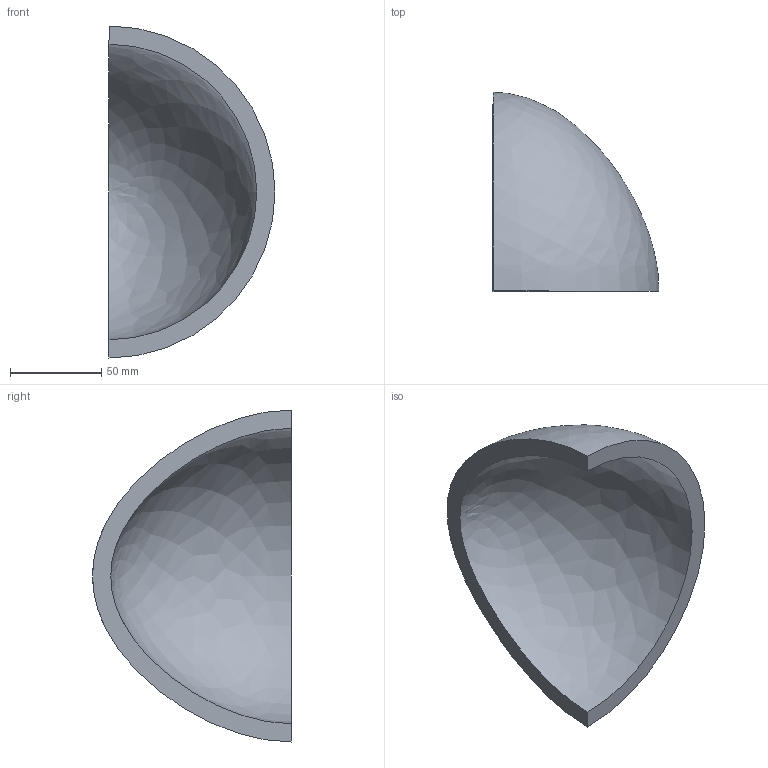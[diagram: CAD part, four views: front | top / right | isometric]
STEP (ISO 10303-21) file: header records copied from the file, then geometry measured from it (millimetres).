
FILE_DESCRIPTION(('CATIA V5 STEP Exchange'),'2;1');
FILE_NAME('C:\_Andres\UNIVERSIDAD\IQS\ASIGNATURAS\DAO\EXF\EXF-16172c\2inicio\Domeque_Sanz_Ej10_v9.stp','2017-03-05T22:31:10+00:00',('none'),('none'),'CATIA Version 5-6 Release 2014 SP1 HF18','CATIA V5 STEP AP203','none');
FILE_SCHEMA(('CONFIG_CONTROL_DESIGN'));
Length unit declared in the file: millimetre
Products named in the file (1): Domeque_Sanz_Ej10_v9
Bounding box: 91 x 109 x 182 mm (x, y, z)
Volume: 253236.4 mm3; surface area: 56385.9 mm2
Topology: 1 solids, 1 shells, 4 faces, 10 edges, 6 vertices
Faces by surface type: revolution 2, plane 2
Entity records: 239 total; most frequent: CARTESIAN_POINT 117, ORIENTED_EDGE 16, DIRECTION 10, EDGE_CURVE 8, B_SPLINE_CURVE_WITH_KNOTS 6, VERTEX_POINT 6, AXIS2_PLACEMENT_3D 5, ADVANCED_FACE 4
